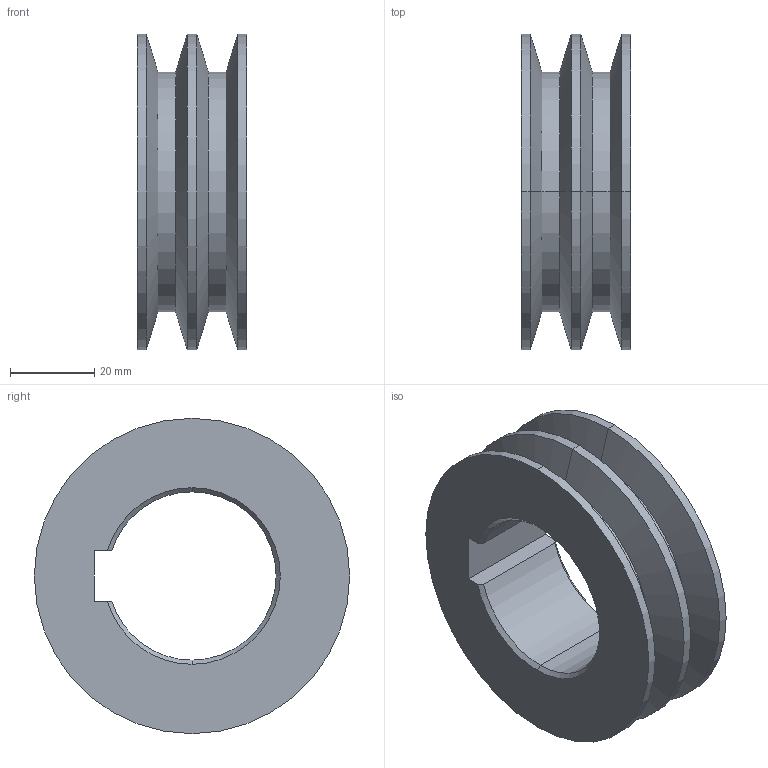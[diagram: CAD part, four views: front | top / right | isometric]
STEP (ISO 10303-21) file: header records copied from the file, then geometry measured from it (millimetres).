
FILE_DESCRIPTION (( 'STEP AP203' ), '1' );
FILE_NAME ('YWSD-2026-03-01-05=009 3V驱动带轮.STEP', '2026-07-24T07:41:53', ( 'Windows 用户' ), ( '' ), 'SwSTEP 2.0', 'SolidWorks 2024', '' );
FILE_SCHEMA (( 'CONFIG_CONTROL_DESIGN' ));
Length unit declared in the file: millimetre
Products named in the file (1): YWSD-2026-03-01-05=009 3V驱动带轮
Bounding box: 26 x 75 x 75 mm (x, y, z)
Volume: 54466.5 mm3; surface area: 20446.5 mm2
Topology: 1 solids, 1 shells, 32 faces, 70 edges, 40 vertices
Faces by surface type: cone 14, cylinder 13, plane 5
Entity records: 951 total; most frequent: DIRECTION 164, CARTESIAN_POINT 155, ORIENTED_EDGE 140, EDGE_CURVE 70, AXIS2_PLACEMENT_3D 65, VERTEX_POINT 40, LINE 34, EDGE_LOOP 34
